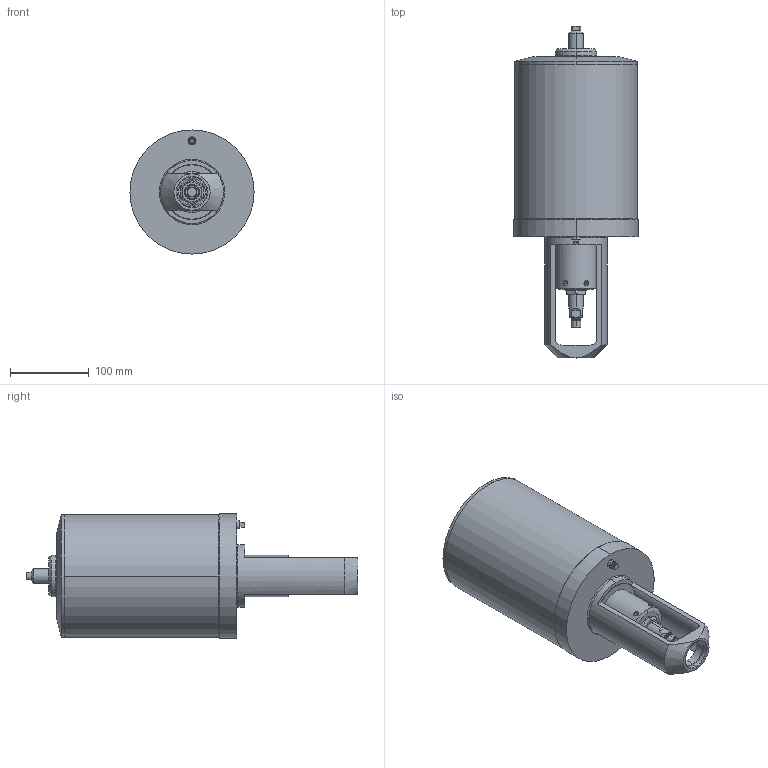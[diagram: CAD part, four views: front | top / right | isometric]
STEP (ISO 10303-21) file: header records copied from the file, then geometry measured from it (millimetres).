
FILE_DESCRIPTION (( 'STEP AP203' ), '1' );
FILE_NAME ('6in air to lower relief.STEP', '2010-08-30T19:34:41', ( 'kburns' ), ( 'Microsoft' ), 'SwSTEP 2.0', 'SolidWorks 2009', '' );
FILE_SCHEMA (( 'CONFIG_CONTROL_DESIGN' ));
Length unit declared in the file: millimetre
Products named in the file (1): 6in air to lower relief
Bounding box: 158.14 x 422.86 x 158.14 mm (x, y, z)
Volume: 4695674.2 mm3; surface area: 205481.4 mm2
Topology: 1 solids, 1 shells, 154 faces, 370 edges, 234 vertices
Faces by surface type: cylinder 56, plane 56, cone 32, bspline 10
Entity records: 5825 total; most frequent: CARTESIAN_POINT 2209, DIRECTION 744, ORIENTED_EDGE 732, EDGE_CURVE 366, AXIS2_PLACEMENT_3D 293, VERTEX_POINT 234, EDGE_LOOP 180, VECTOR 158
